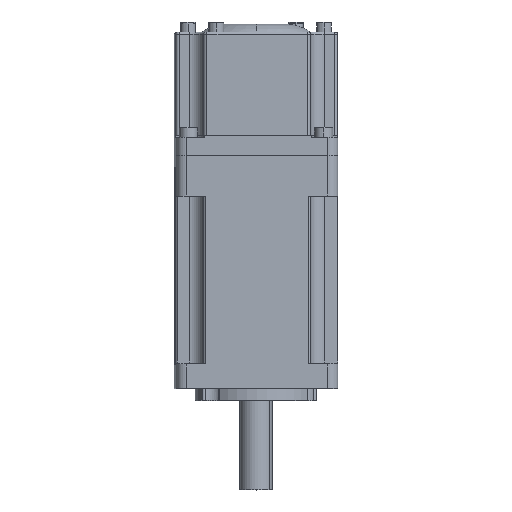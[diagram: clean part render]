
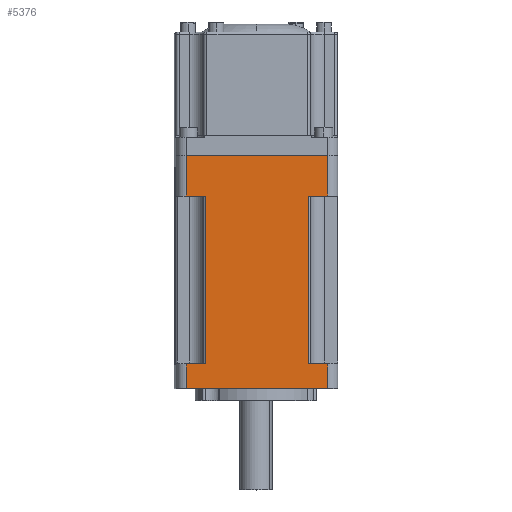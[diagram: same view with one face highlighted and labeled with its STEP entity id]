
A CAD part, top view. The second image highlights one B-rep face of the part: STEP entity #5376.
In plain terms, the highlighted planar face has unit normal (0.014, 0, 1).
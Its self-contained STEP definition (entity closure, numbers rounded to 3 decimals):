
#192 = CARTESIAN_POINT ( 'NONE',  ( 44.275, 61.36, 51.884 ) ) ;
#244 = VERTEX_POINT ( 'NONE', #10770 ) ;
#266 = LINE ( 'NONE', #7619, #11183 ) ;
#368 = VECTOR ( 'NONE', #10387, 1000. ) ;
#476 = DIRECTION ( 'NONE',  ( 0., 1., 0. ) ) ;
#609 = LINE ( 'NONE', #192, #368 ) ;
#835 = EDGE_CURVE ( 'NONE', #3458, #4401, #936, .T. ) ;
#936 = LINE ( 'NONE', #3230, #6039 ) ;
#1090 = ORIENTED_EDGE ( 'NONE', *, *, #6544, .T. ) ;
#1249 = EDGE_CURVE ( 'NONE', #10643, #2160, #609, .T. ) ;
#1404 = CARTESIAN_POINT ( 'NONE',  ( 49.075, 13.86, 51.816 ) ) ;
#1540 = ORIENTED_EDGE ( 'NONE', *, *, #4129, .T. ) ;
#1554 = LINE ( 'NONE', #6590, #7917 ) ;
#1772 = DIRECTION ( 'NONE',  ( 0.014, 0., 1. ) ) ;
#2160 = VERTEX_POINT ( 'NONE', #9928 ) ;
#2233 = VECTOR ( 'NONE', #476, 1000. ) ;
#2530 = CARTESIAN_POINT ( 'NONE',  ( 49.075, 19.86, 51.816 ) ) ;
#2699 = VECTOR ( 'NONE', #11518, 1000. ) ;
#3051 = LINE ( 'NONE', #6669, #2699 ) ;
#3099 = DIRECTION ( 'NONE',  ( -1., 0., 0.014 ) ) ;
#3207 = EDGE_CURVE ( 'NONE', #4836, #9969, #3270, .T. ) ;
#3230 = CARTESIAN_POINT ( 'NONE',  ( 11.579, 71.36, 52.344 ) ) ;
#3231 = VERTEX_POINT ( 'NONE', #8479 ) ;
#3268 = ORIENTED_EDGE ( 'NONE', *, *, #835, .F. ) ;
#3270 = LINE ( 'NONE', #2530, #3293 ) ;
#3293 = VECTOR ( 'NONE', #11341, 1000. ) ;
#3309 = EDGE_CURVE ( 'NONE', #10413, #10643, #3051, .T. ) ;
#3455 = CARTESIAN_POINT ( 'NONE',  ( 14.078, 19.86, 52.309 ) ) ;
#3458 = VERTEX_POINT ( 'NONE', #5929 ) ;
#3590 = EDGE_CURVE ( 'NONE', #6834, #4093, #8105, .T. ) ;
#3625 = CARTESIAN_POINT ( 'NONE',  ( 18.878, 61.36, 52.242 ) ) ;
#3669 = DIRECTION ( 'NONE',  ( 0., -1., 0. ) ) ;
#3689 = ORIENTED_EDGE ( 'NONE', *, *, #5904, .F. ) ;
#3768 = CARTESIAN_POINT ( 'NONE',  ( 11.579, 13.86, 52.344 ) ) ;
#4093 = VERTEX_POINT ( 'NONE', #3455 ) ;
#4129 = EDGE_CURVE ( 'NONE', #3458, #12670, #4705, .T. ) ;
#4222 = DIRECTION ( 'NONE',  ( -1., 0., 0.014 ) ) ;
#4379 = ORIENTED_EDGE ( 'NONE', *, *, #11312, .T. ) ;
#4401 = VERTEX_POINT ( 'NONE', #8863 ) ;
#4519 = CARTESIAN_POINT ( 'NONE',  ( 11.579, 13.86, 52.344 ) ) ;
#4591 = VECTOR ( 'NONE', #7451, 1000. ) ;
#4705 = LINE ( 'NONE', #9420, #4591 ) ;
#4836 = VERTEX_POINT ( 'NONE', #10640 ) ;
#5085 = LINE ( 'NONE', #7963, #12506 ) ;
#5376 = ADVANCED_FACE ( 'NONE', ( #8136 ), #12514, .T. ) ;
#5387 = ORIENTED_EDGE ( 'NONE', *, *, #3590, .T. ) ;
#5483 = DIRECTION ( 'NONE',  ( 1., 0., -0.014 ) ) ;
#5904 = EDGE_CURVE ( 'NONE', #3231, #12670, #266, .T. ) ;
#5929 = CARTESIAN_POINT ( 'NONE',  ( 14.078, 71.36, 52.309 ) ) ;
#6039 = VECTOR ( 'NONE', #12386, 1000. ) ;
#6544 = EDGE_CURVE ( 'NONE', #244, #9969, #7617, .T. ) ;
#6590 = CARTESIAN_POINT ( 'NONE',  ( 14.078, 19.86, 52.309 ) ) ;
#6669 = CARTESIAN_POINT ( 'NONE',  ( 44.275, 61.36, 51.884 ) ) ;
#6834 = VERTEX_POINT ( 'NONE', #8931 ) ;
#7084 = CARTESIAN_POINT ( 'NONE',  ( 49.075, 61.36, 51.816 ) ) ;
#7169 = EDGE_CURVE ( 'NONE', #3231, #6834, #9132, .T. ) ;
#7185 = EDGE_CURVE ( 'NONE', #4093, #244, #1554, .T. ) ;
#7451 = DIRECTION ( 'NONE',  ( 0., -1., 0. ) ) ;
#7617 = LINE ( 'NONE', #4519, #8700 ) ;
#7619 = CARTESIAN_POINT ( 'NONE',  ( 14.078, 61.36, 52.309 ) ) ;
#7630 = VECTOR ( 'NONE', #11439, 1000. ) ;
#7891 = ORIENTED_EDGE ( 'NONE', *, *, #3207, .F. ) ;
#7917 = VECTOR ( 'NONE', #3669, 1000. ) ;
#7963 = CARTESIAN_POINT ( 'NONE',  ( 14.078, 19.86, 52.309 ) ) ;
#8105 = LINE ( 'NONE', #11051, #8556 ) ;
#8136 = FACE_OUTER_BOUND ( 'NONE', #11044, .T. ) ;
#8457 = CARTESIAN_POINT ( 'NONE',  ( 44.275, 61.36, 51.884 ) ) ;
#8479 = CARTESIAN_POINT ( 'NONE',  ( 18.878, 61.36, 52.242 ) ) ;
#8544 = ORIENTED_EDGE ( 'NONE', *, *, #1249, .F. ) ;
#8556 = VECTOR ( 'NONE', #4222, 1000. ) ;
#8700 = VECTOR ( 'NONE', #5483, 1000. ) ;
#8705 = DIRECTION ( 'NONE',  ( 1., 0., -0.014 ) ) ;
#8863 = CARTESIAN_POINT ( 'NONE',  ( 49.075, 71.36, 51.816 ) ) ;
#8931 = CARTESIAN_POINT ( 'NONE',  ( 18.878, 19.86, 52.242 ) ) ;
#8956 = ORIENTED_EDGE ( 'NONE', *, *, #7185, .T. ) ;
#9132 = LINE ( 'NONE', #3625, #7630 ) ;
#9392 = ORIENTED_EDGE ( 'NONE', *, *, #7169, .T. ) ;
#9420 = CARTESIAN_POINT ( 'NONE',  ( 14.078, 13.86, 52.309 ) ) ;
#9928 = CARTESIAN_POINT ( 'NONE',  ( 44.275, 19.86, 51.884 ) ) ;
#9969 = VERTEX_POINT ( 'NONE', #11266 ) ;
#10113 = LINE ( 'NONE', #1404, #2233 ) ;
#10387 = DIRECTION ( 'NONE',  ( 0., -1., 0. ) ) ;
#10413 = VERTEX_POINT ( 'NONE', #7084 ) ;
#10480 = DIRECTION ( 'NONE',  ( -1., 0., 0.014 ) ) ;
#10640 = CARTESIAN_POINT ( 'NONE',  ( 49.075, 19.86, 51.816 ) ) ;
#10643 = VERTEX_POINT ( 'NONE', #8457 ) ;
#10770 = CARTESIAN_POINT ( 'NONE',  ( 14.078, 13.86, 52.309 ) ) ;
#10888 = AXIS2_PLACEMENT_3D ( 'NONE', #3768, #1772, #8705 ) ;
#11044 = EDGE_LOOP ( 'NONE', ( #9392, #5387, #8956, #1090, #7891, #4379, #8544, #11653, #11985, #3268, #1540, #3689 ) ) ;
#11051 = CARTESIAN_POINT ( 'NONE',  ( 14.078, 19.86, 52.309 ) ) ;
#11183 = VECTOR ( 'NONE', #10480, 1000. ) ;
#11266 = CARTESIAN_POINT ( 'NONE',  ( 49.075, 13.86, 51.816 ) ) ;
#11312 = EDGE_CURVE ( 'NONE', #4836, #2160, #5085, .T. ) ;
#11341 = DIRECTION ( 'NONE',  ( 0., -1., 0. ) ) ;
#11439 = DIRECTION ( 'NONE',  ( 0., -1., 0. ) ) ;
#11518 = DIRECTION ( 'NONE',  ( -1., 0., 0.014 ) ) ;
#11653 = ORIENTED_EDGE ( 'NONE', *, *, #3309, .F. ) ;
#11930 = CARTESIAN_POINT ( 'NONE',  ( 14.078, 61.36, 52.309 ) ) ;
#11985 = ORIENTED_EDGE ( 'NONE', *, *, #12004, .T. ) ;
#12004 = EDGE_CURVE ( 'NONE', #10413, #4401, #10113, .T. ) ;
#12386 = DIRECTION ( 'NONE',  ( 1., 0., -0.014 ) ) ;
#12506 = VECTOR ( 'NONE', #3099, 1000. ) ;
#12514 = PLANE ( 'NONE',  #10888 ) ;
#12670 = VERTEX_POINT ( 'NONE', #11930 ) ;
